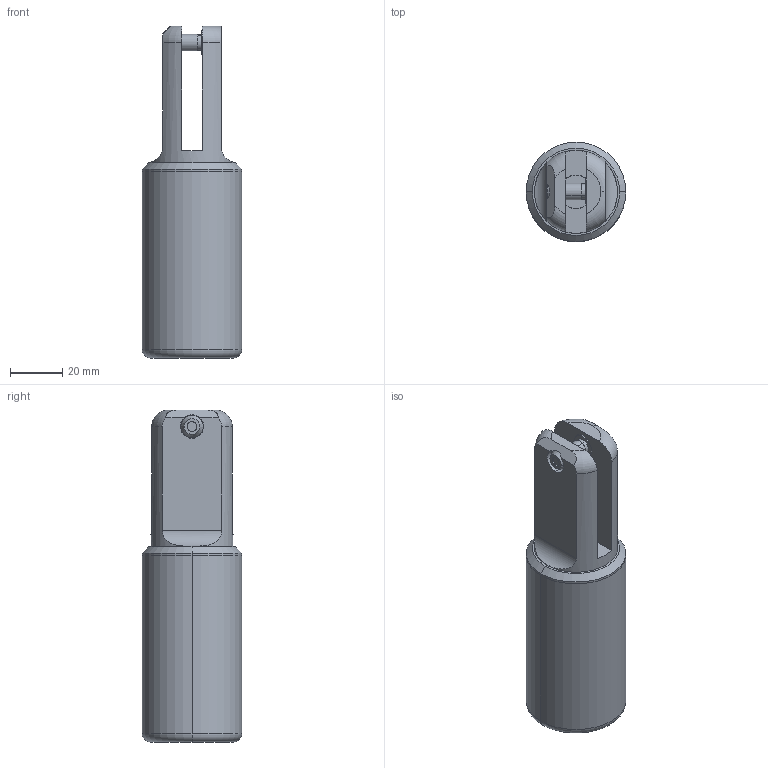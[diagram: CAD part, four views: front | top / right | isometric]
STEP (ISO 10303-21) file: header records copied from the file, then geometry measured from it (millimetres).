
FILE_DESCRIPTION (( 'STEP AP203' ), '1' );
FILE_NAME ('SP-01PF WITH PGC-8.STEP', '2008-08-12T03:20:42', ( 'ANDREW' ), ( 'SIMONDS INC' ), 'SwSTEP 2.0', 'SolidWorks 2008', '' );
FILE_SCHEMA (( 'CONFIG_CONTROL_DESIGN' ));
Length unit declared in the file: inch
Products named in the file (5): SP-01PF WITH PGC-8; 1-01F; 33-01_Default<As Machined>; 2-01_Default<As Machined>; 23-01_Default<As Machined>
Assembly tree (4 placements, depth 2):
  SP-01PF WITH PGC-8
    1-01F
    2-01_Default<As Machined>
    23-01_Default<As Machined>
    33-01_Default<As Machined>
Bounding box: 38.1 x 38.1 x 126.97 mm (x, y, z)
Volume: 77797.9 mm3; surface area: 27599.5 mm2
Topology: 4 solids, 4 shells, 276 faces, 658 edges, 402 vertices
Faces by surface type: plane 160, cylinder 82, cone 28, torus 6
Entity records: 8722 total; most frequent: CARTESIAN_POINT 1655, DIRECTION 1449, ORIENTED_EDGE 1316, EDGE_CURVE 658, AXIS2_PLACEMENT_3D 528, VERTEX_POINT 402, VECTOR 393, LINE 393
